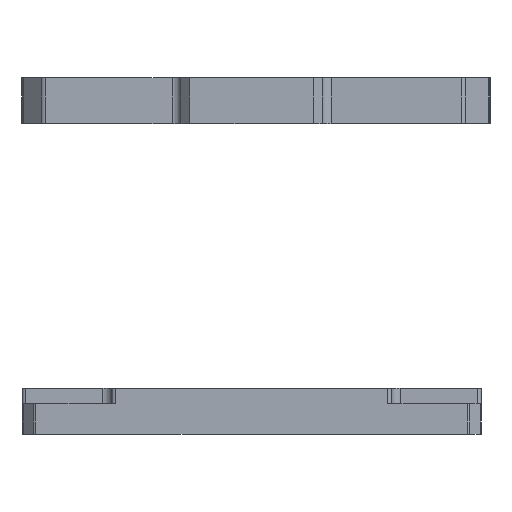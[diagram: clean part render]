
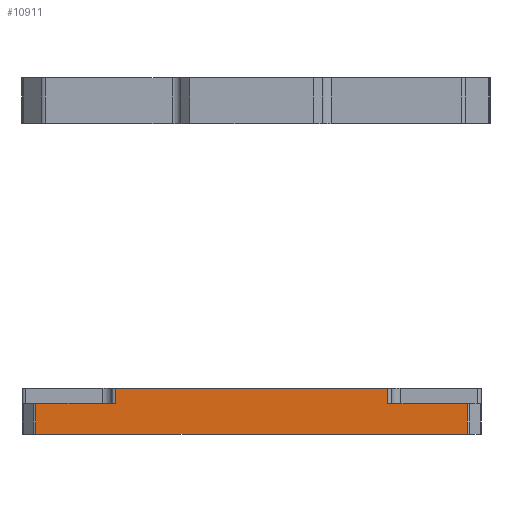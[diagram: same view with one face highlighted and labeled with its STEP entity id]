
A CAD part, left-side view. The second image highlights one B-rep face of the part: STEP entity #10911.
In plain terms, the highlighted planar face has unit normal (-1, 0, 0) as drawn and (1, 0, 0) by its records, which use the part's own axes.
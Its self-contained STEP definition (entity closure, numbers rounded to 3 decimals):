
#95 = LINE ( 'NONE', #8571, #12089 ) ;
#305 = ORIENTED_EDGE ( 'NONE', *, *, #7590, .T. ) ;
#347 = ORIENTED_EDGE ( 'NONE', *, *, #12090, .T. ) ;
#895 = DIRECTION ( 'NONE',  ( 0., 1., 0. ) ) ;
#962 = VERTEX_POINT ( 'NONE', #10887 ) ;
#1385 = VECTOR ( 'NONE', #1624, 1000. ) ;
#1624 = DIRECTION ( 'NONE',  ( 0., 0., 1. ) ) ;
#1730 = DIRECTION ( 'NONE',  ( 0., 0., -1. ) ) ;
#1826 = VECTOR ( 'NONE', #6183, 1000. ) ;
#1868 = VERTEX_POINT ( 'NONE', #11639 ) ;
#2651 = CARTESIAN_POINT ( 'NONE',  ( 130., -122.172, 26. ) ) ;
#2762 = EDGE_CURVE ( 'NONE', #962, #10984, #3123, .T. ) ;
#3109 = VECTOR ( 'NONE', #3271, 1000. ) ;
#3123 = LINE ( 'NONE', #4238, #1826 ) ;
#3254 = ORIENTED_EDGE ( 'NONE', *, *, #10626, .F. ) ;
#3271 = DIRECTION ( 'NONE',  ( 0., 0., -1. ) ) ;
#3363 = EDGE_CURVE ( 'NONE', #1868, #962, #4473, .T. ) ;
#3386 = DIRECTION ( 'NONE',  ( 0., -1., 0. ) ) ;
#3559 = CARTESIAN_POINT ( 'NONE',  ( 130., 122.172, 8.5 ) ) ;
#4238 = CARTESIAN_POINT ( 'NONE',  ( 130., -79.2, 8.5 ) ) ;
#4473 = LINE ( 'NONE', #11010, #10794 ) ;
#4920 = VERTEX_POINT ( 'NONE', #12074 ) ;
#5061 = VERTEX_POINT ( 'NONE', #3559 ) ;
#5067 = VERTEX_POINT ( 'NONE', #10522 ) ;
#5211 = EDGE_LOOP ( 'NONE', ( #10420, #7272, #347, #305, #11551, #10638, #3254, #5694 ) ) ;
#5463 = FACE_OUTER_BOUND ( 'NONE', #5211, .T. ) ;
#5634 = VERTEX_POINT ( 'NONE', #11858 ) ;
#5694 = ORIENTED_EDGE ( 'NONE', *, *, #3363, .T. ) ;
#5733 = DIRECTION ( 'NONE',  ( 0., 1., 0. ) ) ;
#5767 = VERTEX_POINT ( 'NONE', #7395 ) ;
#6181 = VECTOR ( 'NONE', #3386, 1000. ) ;
#6183 = DIRECTION ( 'NONE',  ( 0., 1., 0. ) ) ;
#6293 = AXIS2_PLACEMENT_3D ( 'NONE', #2651, #11061, #9180 ) ;
#6583 = LINE ( 'NONE', #9548, #8319 ) ;
#7272 = ORIENTED_EDGE ( 'NONE', *, *, #11479, .T. ) ;
#7382 = CARTESIAN_POINT ( 'NONE',  ( 130., 77.2, 26. ) ) ;
#7395 = CARTESIAN_POINT ( 'NONE',  ( 130., -77.2, 0. ) ) ;
#7463 = EDGE_CURVE ( 'NONE', #5061, #5634, #8144, .T. ) ;
#7590 = EDGE_CURVE ( 'NONE', #5067, #5634, #9215, .T. ) ;
#8035 = CARTESIAN_POINT ( 'NONE',  ( 130., 122.172, 26. ) ) ;
#8144 = LINE ( 'NONE', #10797, #6181 ) ;
#8319 = VECTOR ( 'NONE', #10429, 1000. ) ;
#8571 = CARTESIAN_POINT ( 'NONE',  ( 130., -122.172, 26. ) ) ;
#9180 = DIRECTION ( 'NONE',  ( 0., -1., 0. ) ) ;
#9215 = LINE ( 'NONE', #7382, #1385 ) ;
#9240 = PLANE ( 'NONE',  #6293 ) ;
#9490 = CARTESIAN_POINT ( 'NONE',  ( 130., -122.172, 0. ) ) ;
#9548 = CARTESIAN_POINT ( 'NONE',  ( 130., -77.2, 0. ) ) ;
#10377 = LINE ( 'NONE', #9490, #12285 ) ;
#10420 = ORIENTED_EDGE ( 'NONE', *, *, #2762, .T. ) ;
#10429 = DIRECTION ( 'NONE',  ( 0., 0., -1. ) ) ;
#10522 = CARTESIAN_POINT ( 'NONE',  ( 130., 77.2, 0. ) ) ;
#10626 = EDGE_CURVE ( 'NONE', #1868, #4920, #95, .T. ) ;
#10638 = ORIENTED_EDGE ( 'NONE', *, *, #11313, .F. ) ;
#10794 = VECTOR ( 'NONE', #1730, 1000. ) ;
#10797 = CARTESIAN_POINT ( 'NONE',  ( 130., 79.2, 8.5 ) ) ;
#10863 = LINE ( 'NONE', #8035, #3109 ) ;
#10887 = CARTESIAN_POINT ( 'NONE',  ( 130., -122.172, 8.5 ) ) ;
#10911 = ADVANCED_FACE ( 'NONE', ( #5463 ), #9240, .F. ) ;
#10984 = VERTEX_POINT ( 'NONE', #11004 ) ;
#11004 = CARTESIAN_POINT ( 'NONE',  ( 130., -77.2, 8.5 ) ) ;
#11010 = CARTESIAN_POINT ( 'NONE',  ( 130., -122.172, 26. ) ) ;
#11061 = DIRECTION ( 'NONE',  ( -1., 0., 0. ) ) ;
#11313 = EDGE_CURVE ( 'NONE', #4920, #5061, #10863, .T. ) ;
#11479 = EDGE_CURVE ( 'NONE', #10984, #5767, #6583, .T. ) ;
#11551 = ORIENTED_EDGE ( 'NONE', *, *, #7463, .F. ) ;
#11639 = CARTESIAN_POINT ( 'NONE',  ( 130., -122.172, 26. ) ) ;
#11858 = CARTESIAN_POINT ( 'NONE',  ( 130., 77.2, 8.5 ) ) ;
#12074 = CARTESIAN_POINT ( 'NONE',  ( 130., 122.172, 26. ) ) ;
#12089 = VECTOR ( 'NONE', #5733, 1000. ) ;
#12090 = EDGE_CURVE ( 'NONE', #5767, #5067, #10377, .T. ) ;
#12285 = VECTOR ( 'NONE', #895, 1000. ) ;
